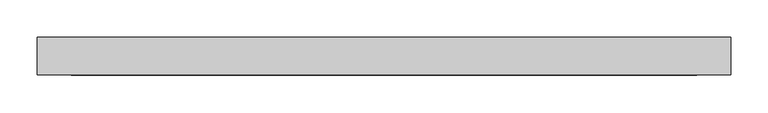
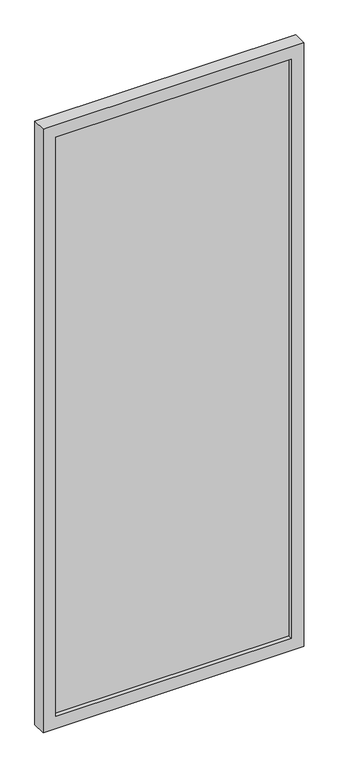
"""IFC4 building model written with IfcOpenShell, lengths in millimetres: plate geometry, Panneau système C&L Fixe Alu : Panneau système C&L Fixe Alu."""

from ifc_helpers import new_model, si_unit, frame, origin, place, context, project, spatial, polyline, outline, extrude, source, transform, mapped, element, save


def plate_c97cd085(model_context):
    return source(origin(), model_context, "Body", "SweptSolid", [
        extrude(outline(polyline([(417.5, -10.0), (-417.5, -10.0), (-417.5, 0.0), (417.5, 0.0), (417.5, -10.0)])), frame((0.0, 0.0, 45.0), z_axis=(0.0, 0.0, 1.0), x_axis=(1.0, 0.0, 0.0)), (0.0, 0.0, 1.0), 2173.05618),
        extrude(outline(polyline([(2263.05618, -462.5), (0.0, -462.5), (0.0, 462.5), (2263.05618, 462.5), (2263.05618, -462.5)]), holes=[polyline([(2218.05618, 417.5), (45.0, 417.5), (45.0, -417.5), (2218.05618, -417.5), (2218.05618, 417.5)])]), frame((0.0, -25.0, 0.0), z_axis=(0.0, 1.0, 0.0), x_axis=(0.0, 0.0, 1.0)), (0.0, 0.0, 1.0), 50.0),
    ])


if __name__ == "__main__":
    model = new_model("IFC4")
    model_context = context("Model", 3, world=origin())
    ifc_project = project(units=[si_unit("LENGTHUNIT", "METRE", prefix="MILLI")], contexts=[model_context])
    site = spatial("IfcSite", under=ifc_project)
    building = spatial("IfcBuilding", under=site)
    placement = place(None, origin())
    plate_shape = plate_c97cd085(model_context)
    element("IfcPlate", 1, ObjectType="Panneau système C&L Fixe Alu : Panneau système C&L Fixe Alu", at=placement, inside=building, context=model_context, shape_type="MappedRepresentation", body=[
        mapped(plate_shape, transform((0.0, 0.0, 0.0), x_axis=(1.0, 0.0, 0.0), y_axis=(0.0, 1.0, 0.0), z_axis=(0.0, 0.0, 1.0))),
    ])
    save(model, "model.ifc")
